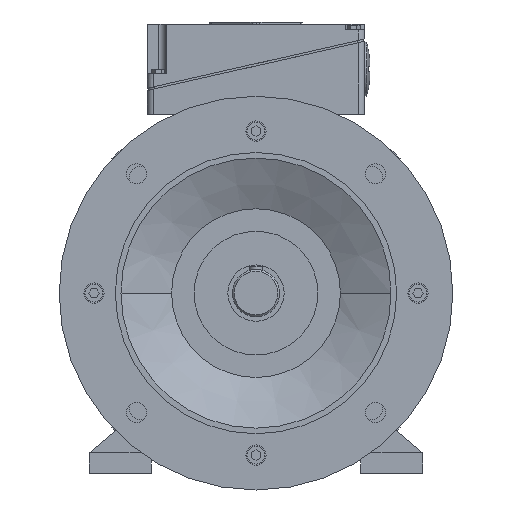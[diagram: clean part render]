
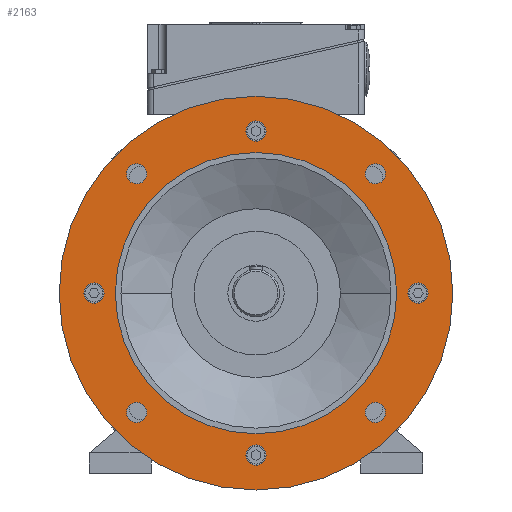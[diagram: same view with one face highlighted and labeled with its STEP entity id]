
A CAD part, front view. The second image highlights one B-rep face of the part: STEP entity #2163.
In plain terms, the highlighted planar face has unit normal (0, -1, 0).
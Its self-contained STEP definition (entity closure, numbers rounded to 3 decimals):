
#2163=ADVANCED_FACE('',(#4496,#4497,#4498,#4499,#4500,#4501,#4502,#4503,#4504,#4505),#4506,.T.);
#4496=FACE_BOUND('',#6992,.T.);
#4497=FACE_BOUND('',#6993,.T.);
#4498=FACE_BOUND('',#6994,.T.);
#4499=FACE_BOUND('',#6995,.T.);
#4500=FACE_BOUND('',#6996,.T.);
#4501=FACE_BOUND('',#6997,.T.);
#4502=FACE_BOUND('',#6998,.T.);
#4503=FACE_BOUND('',#6999,.T.);
#4504=FACE_BOUND('',#7000,.T.);
#4505=FACE_OUTER_BOUND('',#7001,.T.);
#4506=PLANE('',#7002);
#6992=EDGE_LOOP('',(#13933,#13934));
#6993=EDGE_LOOP('',(#13935,#13936));
#6994=EDGE_LOOP('',(#13937,#13938));
#6995=EDGE_LOOP('',(#13939,#13940));
#6996=EDGE_LOOP('',(#13941,#13942));
#6997=EDGE_LOOP('',(#13943,#13944));
#6998=EDGE_LOOP('',(#13945,#13946));
#6999=EDGE_LOOP('',(#13947,#13948));
#7000=EDGE_LOOP('',(#13949,#13950));
#7001=EDGE_LOOP('',(#13951,#13952));
#7002=AXIS2_PLACEMENT_3D('',#13953,#13954,#13955);
#13933=ORIENTED_EDGE('',*,*,#17790,.T.);
#13934=ORIENTED_EDGE('',*,*,#15430,.T.);
#13935=ORIENTED_EDGE('',*,*,#17792,.T.);
#13936=ORIENTED_EDGE('',*,*,#15425,.T.);
#13937=ORIENTED_EDGE('',*,*,#17794,.T.);
#13938=ORIENTED_EDGE('',*,*,#15420,.T.);
#13939=ORIENTED_EDGE('',*,*,#17796,.T.);
#13940=ORIENTED_EDGE('',*,*,#15415,.T.);
#13941=ORIENTED_EDGE('',*,*,#15410,.T.);
#13942=ORIENTED_EDGE('',*,*,#17861,.T.);
#13943=ORIENTED_EDGE('',*,*,#15405,.T.);
#13944=ORIENTED_EDGE('',*,*,#17865,.T.);
#13945=ORIENTED_EDGE('',*,*,#15400,.T.);
#13946=ORIENTED_EDGE('',*,*,#17869,.T.);
#13947=ORIENTED_EDGE('',*,*,#15395,.T.);
#13948=ORIENTED_EDGE('',*,*,#17873,.T.);
#13949=ORIENTED_EDGE('',*,*,#15380,.F.);
#13950=ORIENTED_EDGE('',*,*,#17901,.F.);
#13951=ORIENTED_EDGE('',*,*,#15387,.T.);
#13952=ORIENTED_EDGE('',*,*,#17899,.T.);
#13953=CARTESIAN_POINT('',(-150.0,-60.5,0.0));
#13954=DIRECTION('',(0.0,-1.0,0.0));
#13955=DIRECTION('',(-1.0,0.0,0.0));
#15380=EDGE_CURVE('',#18510,#18513,#18514,.T.);
#15387=EDGE_CURVE('',#18520,#18524,#18526,.T.);
#15395=EDGE_CURVE('',#18538,#18535,#18539,.T.);
#15400=EDGE_CURVE('',#18547,#18544,#18548,.T.);
#15405=EDGE_CURVE('',#18556,#18553,#18557,.T.);
#15410=EDGE_CURVE('',#18565,#18562,#18566,.T.);
#15415=EDGE_CURVE('',#18574,#18571,#18575,.T.);
#15420=EDGE_CURVE('',#18583,#18580,#18584,.T.);
#15425=EDGE_CURVE('',#18592,#18589,#18593,.T.);
#15430=EDGE_CURVE('',#18601,#18598,#18602,.T.);
#17790=EDGE_CURVE('',#18598,#18601,#22157,.T.);
#17792=EDGE_CURVE('',#18589,#18592,#22159,.T.);
#17794=EDGE_CURVE('',#18580,#18583,#22161,.T.);
#17796=EDGE_CURVE('',#18571,#18574,#22163,.T.);
#17861=EDGE_CURVE('',#18562,#18565,#22228,.T.);
#17865=EDGE_CURVE('',#18553,#18556,#22232,.T.);
#17869=EDGE_CURVE('',#18544,#18547,#22236,.T.);
#17873=EDGE_CURVE('',#18535,#18538,#22240,.T.);
#17899=EDGE_CURVE('',#18524,#18520,#22266,.T.);
#17901=EDGE_CURVE('',#18513,#18510,#22268,.T.);
#18510=VERTEX_POINT('',#23309);
#18513=VERTEX_POINT('',#23313);
#18514=CIRCLE('',#23314,125.0);
#18520=VERTEX_POINT('',#23321);
#18524=VERTEX_POINT('',#23326);
#18526=CIRCLE('',#23329,175.0);
#18535=VERTEX_POINT('',#23338);
#18538=VERTEX_POINT('',#23342);
#18539=CIRCLE('',#23343,9.0);
#18544=VERTEX_POINT('',#23349);
#18547=VERTEX_POINT('',#23353);
#18548=CIRCLE('',#23354,9.0);
#18553=VERTEX_POINT('',#23360);
#18556=VERTEX_POINT('',#23364);
#18557=CIRCLE('',#23365,9.0);
#18562=VERTEX_POINT('',#23371);
#18565=VERTEX_POINT('',#23375);
#18566=CIRCLE('',#23376,9.0);
#18571=VERTEX_POINT('',#23382);
#18574=VERTEX_POINT('',#23386);
#18575=CIRCLE('',#23387,9.0);
#18580=VERTEX_POINT('',#23393);
#18583=VERTEX_POINT('',#23397);
#18584=CIRCLE('',#23398,9.0);
#18589=VERTEX_POINT('',#23404);
#18592=VERTEX_POINT('',#23408);
#18593=CIRCLE('',#23409,9.0);
#18598=VERTEX_POINT('',#23415);
#18601=VERTEX_POINT('',#23419);
#18602=CIRCLE('',#23420,9.0);
#22157=CIRCLE('',#33715,9.0);
#22159=CIRCLE('',#33717,9.0);
#22161=CIRCLE('',#33719,9.0);
#22163=CIRCLE('',#33721,9.0);
#22228=CIRCLE('',#34115,9.0);
#22232=CIRCLE('',#34119,9.0);
#22236=CIRCLE('',#34123,9.0);
#22240=CIRCLE('',#34127,9.0);
#22266=CIRCLE('',#34184,175.0);
#22268=CIRCLE('',#34186,125.0);
#23309=CARTESIAN_POINT('',(-125.0,-60.5,0.0));
#23313=CARTESIAN_POINT('',(125.0,-60.5,0.));
#23314=AXIS2_PLACEMENT_3D('',#35531,#35532,#35533);
#23321=CARTESIAN_POINT('',(-175.0,-60.5,0.0));
#23326=CARTESIAN_POINT('',(175.0,-60.5,0.));
#23329=AXIS2_PLACEMENT_3D('',#35543,#35544,#35545);
#23338=CARTESIAN_POINT('',(9.0,-60.5,144.0));
#23342=CARTESIAN_POINT('',(-9.0,-60.5,144.0));
#23343=AXIS2_PLACEMENT_3D('',#35559,#35560,#35561);
#23349=CARTESIAN_POINT('',(-144.0,-60.5,9.0));
#23353=CARTESIAN_POINT('',(-144.0,-60.5,-9.0));
#23354=AXIS2_PLACEMENT_3D('',#35567,#35568,#35569);
#23360=CARTESIAN_POINT('',(-9.0,-60.5,-144.0));
#23364=CARTESIAN_POINT('',(9.0,-60.5,-144.0));
#23365=AXIS2_PLACEMENT_3D('',#35575,#35576,#35577);
#23371=CARTESIAN_POINT('',(144.0,-60.5,-9.0));
#23375=CARTESIAN_POINT('',(144.0,-60.5,9.0));
#23376=AXIS2_PLACEMENT_3D('',#35583,#35584,#35585);
#23382=CARTESIAN_POINT('',(112.43,-60.5,112.43));
#23386=CARTESIAN_POINT('',(99.702,-60.5,99.702));
#23387=AXIS2_PLACEMENT_3D('',#35591,#35592,#35593);
#23393=CARTESIAN_POINT('',(-112.43,-60.5,112.43));
#23397=CARTESIAN_POINT('',(-99.702,-60.5,99.702));
#23398=AXIS2_PLACEMENT_3D('',#35599,#35600,#35601);
#23404=CARTESIAN_POINT('',(-112.43,-60.5,-112.43));
#23408=CARTESIAN_POINT('',(-99.702,-60.5,-99.702));
#23409=AXIS2_PLACEMENT_3D('',#35607,#35608,#35609);
#23415=CARTESIAN_POINT('',(112.43,-60.5,-112.43));
#23419=CARTESIAN_POINT('',(99.702,-60.5,-99.702));
#23420=AXIS2_PLACEMENT_3D('',#35615,#35616,#35617);
#33715=AXIS2_PLACEMENT_3D('',#37830,#37831,#37832);
#33717=AXIS2_PLACEMENT_3D('',#37833,#37834,#37835);
#33719=AXIS2_PLACEMENT_3D('',#37836,#37837,#37838);
#33721=AXIS2_PLACEMENT_3D('',#37839,#37840,#37841);
#34115=AXIS2_PLACEMENT_3D('',#37873,#37874,#37875);
#34119=AXIS2_PLACEMENT_3D('',#37879,#37880,#37881);
#34123=AXIS2_PLACEMENT_3D('',#37885,#37886,#37887);
#34127=AXIS2_PLACEMENT_3D('',#37891,#37892,#37893);
#34184=AXIS2_PLACEMENT_3D('',#37902,#37903,#37904);
#34186=AXIS2_PLACEMENT_3D('',#37905,#37906,#37907);
#35531=CARTESIAN_POINT('',(0.0,-60.5,0.0));
#35532=DIRECTION('',(0.0,-1.0,0.0));
#35533=DIRECTION('',(-1.0,0.0,0.0));
#35543=CARTESIAN_POINT('',(0.0,-60.5,0.0));
#35544=DIRECTION('',(0.0,-1.0,0.0));
#35545=DIRECTION('',(-1.0,0.0,0.0));
#35559=CARTESIAN_POINT('',(0.0,-60.5,144.0));
#35560=DIRECTION('',(-0.0,1.0,0.0));
#35561=DIRECTION('',(1.0,0.0,0.0));
#35567=CARTESIAN_POINT('',(-144.0,-60.5,0.0));
#35568=DIRECTION('',(-0.0,1.0,0.0));
#35569=DIRECTION('',(0.0,0.0,1.0));
#35575=CARTESIAN_POINT('',(0.0,-60.5,-144.0));
#35576=DIRECTION('',(0.0,1.0,-0.0));
#35577=DIRECTION('',(-1.0,0.0,0.0));
#35583=CARTESIAN_POINT('',(144.0,-60.5,0.0));
#35584=DIRECTION('',(-0.0,1.0,0.0));
#35585=DIRECTION('',(0.0,0.0,-1.0));
#35591=CARTESIAN_POINT('',(106.066,-60.5,106.066));
#35592=DIRECTION('',(-0.0,1.0,0.0));
#35593=DIRECTION('',(0.707,0.0,0.707));
#35599=CARTESIAN_POINT('',(-106.066,-60.5,106.066));
#35600=DIRECTION('',(0.0,1.0,-0.0));
#35601=DIRECTION('',(-0.707,0.0,0.707));
#35607=CARTESIAN_POINT('',(-106.066,-60.5,-106.066));
#35608=DIRECTION('',(0.0,1.0,0.0));
#35609=DIRECTION('',(-0.707,0.0,-0.707));
#35615=CARTESIAN_POINT('',(106.066,-60.5,-106.066));
#35616=DIRECTION('',(-0.0,1.0,0.0));
#35617=DIRECTION('',(0.707,0.0,-0.707));
#37830=CARTESIAN_POINT('',(106.066,-60.5,-106.066));
#37831=DIRECTION('',(-0.0,1.0,0.0));
#37832=DIRECTION('',(0.707,0.0,-0.707));
#37833=CARTESIAN_POINT('',(-106.066,-60.5,-106.066));
#37834=DIRECTION('',(0.0,1.0,0.0));
#37835=DIRECTION('',(-0.707,0.0,-0.707));
#37836=CARTESIAN_POINT('',(-106.066,-60.5,106.066));
#37837=DIRECTION('',(0.0,1.0,-0.0));
#37838=DIRECTION('',(-0.707,0.0,0.707));
#37839=CARTESIAN_POINT('',(106.066,-60.5,106.066));
#37840=DIRECTION('',(-0.0,1.0,0.0));
#37841=DIRECTION('',(0.707,0.0,0.707));
#37873=CARTESIAN_POINT('',(144.0,-60.5,0.0));
#37874=DIRECTION('',(-0.0,1.0,0.0));
#37875=DIRECTION('',(0.0,0.0,-1.0));
#37879=CARTESIAN_POINT('',(0.0,-60.5,-144.0));
#37880=DIRECTION('',(0.0,1.0,-0.0));
#37881=DIRECTION('',(-1.0,0.0,0.0));
#37885=CARTESIAN_POINT('',(-144.0,-60.5,0.0));
#37886=DIRECTION('',(-0.0,1.0,0.0));
#37887=DIRECTION('',(0.0,0.0,1.0));
#37891=CARTESIAN_POINT('',(0.0,-60.5,144.0));
#37892=DIRECTION('',(-0.0,1.0,0.0));
#37893=DIRECTION('',(1.0,0.0,0.0));
#37902=CARTESIAN_POINT('',(0.0,-60.5,0.0));
#37903=DIRECTION('',(0.0,-1.0,0.0));
#37904=DIRECTION('',(-1.0,0.0,0.0));
#37905=CARTESIAN_POINT('',(0.0,-60.5,0.0));
#37906=DIRECTION('',(0.0,-1.0,0.0));
#37907=DIRECTION('',(-1.0,0.0,0.0));
